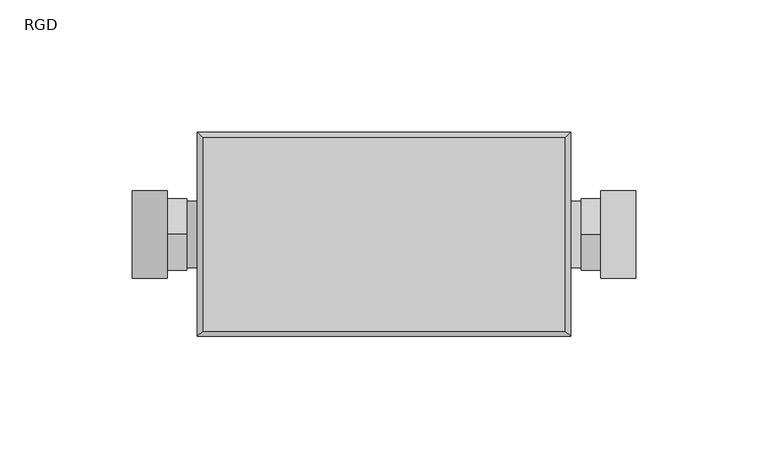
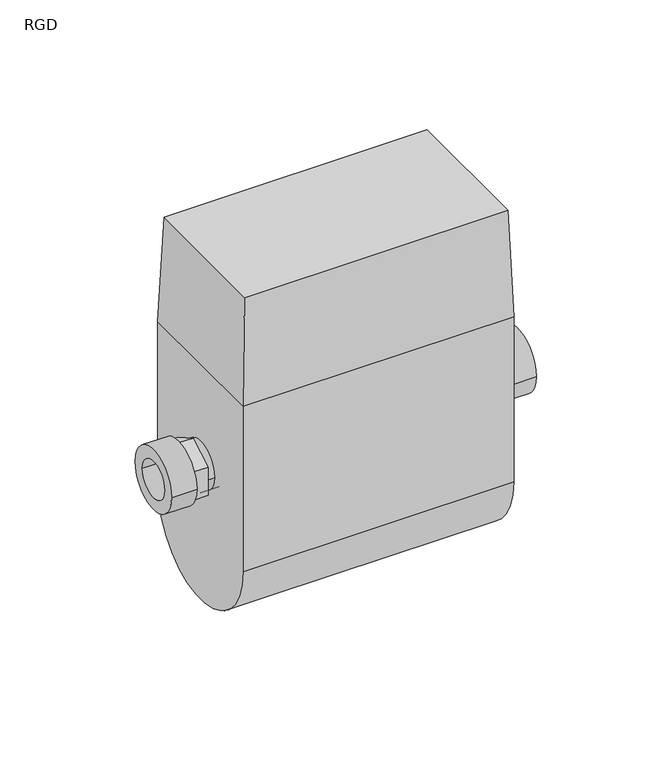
"""IFC4 building model written with IfcOpenShell, lengths in millimetres: pipe fitting geometry, RE.GUARD : RGD."""

from ifc_helpers import new_model, si_unit, point, frame, frame_2d, origin, place, context, project, spatial, polyline, circle_curve, trimmed, segment, composite_curve, outline, extrude, source, transform, mapped, element, save
from ifc_brep_helpers import plane_surface, cylinder_surface, revolved_surface, advanced_brep


def rgd_206702d6(model_context):
    return source(origin(), model_context, "Body", "SolidModel", [
        extrude(outline(polyline([(15.0294975, -15.5884573), (1.5294975, -7.7942286), (1.5294975, 7.7942286), (15.0294975, 15.5884573), (28.5294975, 7.7942286), (28.5294975, -7.7942286), (15.0294975, -15.5884573)]), holes=[composite_curve([segment(trimmed(circle_curve(frame_2d((15.0294975, 0.0)), 10.0), [point((5.0294975, 0.0))], [point((25.0294975, 0.0))], True, "CARTESIAN"), True, "CONTINUOUS"), segment(trimmed(circle_curve(frame_2d((15.0294975, 0.0)), 10.0), [point((25.0294975, 0.0))], [point((5.0294975, 0.0))], True, "CARTESIAN"), True, "CONTINUOUS")], self_intersect=False)]), frame((74.4, 0.0, 0.0), z_axis=(1.0, 0.0, 0.0), x_axis=(0.0, 1.0, 0.0)), (0.0, 0.0, 1.0), 7.5),
        extrude(outline(composite_curve([segment(trimmed(circle_curve(frame_2d((15.0294975, 0.0)), 12.5), [point((2.5294975, 0.0))], [point((27.5294975, 0.0))], False, "CARTESIAN"), True, "CONTINUOUS"), segment(trimmed(circle_curve(frame_2d((15.0294975, 0.0)), 12.5), [point((27.5294975, 0.0))], [point((2.5294975, 0.0))], False, "CARTESIAN"), True, "CONTINUOUS")], self_intersect=False), holes=[composite_curve([segment(trimmed(circle_curve(frame_2d((15.0294975, 0.0)), 10.0), [point((5.0294975, 0.0))], [point((25.0294975, 0.0))], True, "CARTESIAN"), True, "CONTINUOUS"), segment(trimmed(circle_curve(frame_2d((15.0294975, 0.0)), 10.0), [point((25.0294975, 0.0))], [point((5.0294975, 0.0))], True, "CARTESIAN"), True, "CONTINUOUS")], self_intersect=False)]), frame((65.0, 0.0, 0.0), z_axis=(1.0, 0.0, 0.0), x_axis=(0.0, 1.0, 0.0)), (0.0, 0.0, 1.0), 9.4),
        extrude(outline(composite_curve([segment(trimmed(circle_curve(frame_2d((15.0294975, 0.0)), 16.5), [point((-1.4705025, 0.0))], [point((31.5294975, 0.0))], False, "CARTESIAN"), True, "CONTINUOUS"), segment(trimmed(circle_curve(frame_2d((15.0294975, 0.0)), 16.5), [point((31.5294975, 0.0))], [point((-1.4705025, 0.0))], False, "CARTESIAN"), True, "CONTINUOUS")], self_intersect=False), holes=[composite_curve([segment(trimmed(circle_curve(frame_2d((15.0294975, 0.0)), 10.0), [point((5.0294975, 0.0))], [point((25.0294975, 0.0))], True, "CARTESIAN"), True, "CONTINUOUS"), segment(trimmed(circle_curve(frame_2d((15.0294975, 0.0)), 10.0), [point((25.0294975, 0.0))], [point((5.0294975, 0.0))], True, "CARTESIAN"), True, "CONTINUOUS")], self_intersect=False)]), frame((81.9, 0.0, 0.0), z_axis=(1.0, 0.0, 0.0), x_axis=(0.0, 1.0, 0.0)), (0.0, 0.0, 1.0), 13.1),
        extrude(outline(polyline([(1.5294975, 7.7942286), (15.0294975, 15.5884573), (28.5294975, 7.7942286), (28.5294975, -7.7942286), (15.0294975, -15.5884573), (1.5294975, -7.7942286), (1.5294975, 7.7942286)]), holes=[composite_curve([segment(trimmed(circle_curve(frame_2d((15.0294975, 0.0)), 10.0), [point((25.0294975, 0.0))], [point((5.0294975, 0.0))], True, "CARTESIAN"), True, "CONTINUOUS"), segment(trimmed(circle_curve(frame_2d((15.0294975, 0.0)), 10.0), [point((5.0294975, 0.0))], [point((25.0294975, 0.0))], True, "CARTESIAN"), True, "CONTINUOUS")], self_intersect=False)]), frame((-81.9, 0.0, 0.0), z_axis=(1.0, 0.0, 0.0), x_axis=(0.0, 1.0, 0.0)), (0.0, 0.0, 1.0), 7.5),
        extrude(outline(composite_curve([segment(trimmed(circle_curve(frame_2d((15.0294975, 0.0)), 12.5), [point((2.5294975, 0.0))], [point((27.5294975, 0.0))], False, "CARTESIAN"), True, "CONTINUOUS"), segment(trimmed(circle_curve(frame_2d((15.0294975, 0.0)), 12.5), [point((27.5294975, 0.0))], [point((2.5294975, 0.0))], False, "CARTESIAN"), True, "CONTINUOUS")], self_intersect=False), holes=[composite_curve([segment(trimmed(circle_curve(frame_2d((15.0294975, 0.0)), 10.0), [point((25.0294975, 0.0))], [point((5.0294975, 0.0))], True, "CARTESIAN"), True, "CONTINUOUS"), segment(trimmed(circle_curve(frame_2d((15.0294975, 0.0)), 10.0), [point((5.0294975, 0.0))], [point((25.0294975, 0.0))], True, "CARTESIAN"), True, "CONTINUOUS")], self_intersect=False)]), frame((-74.4, 0.0, 0.0), z_axis=(1.0, 0.0, 0.0), x_axis=(0.0, 1.0, 0.0)), (0.0, 0.0, 1.0), 9.4),
        extrude(outline(composite_curve([segment(trimmed(circle_curve(frame_2d((15.0294975, 0.0)), 16.5), [point((-1.4705025, 0.0))], [point((31.5294975, 0.0))], False, "CARTESIAN"), True, "CONTINUOUS"), segment(trimmed(circle_curve(frame_2d((15.0294975, 0.0)), 16.5), [point((31.5294975, 0.0))], [point((-1.4705025, 0.0))], False, "CARTESIAN"), True, "CONTINUOUS")], self_intersect=False), holes=[composite_curve([segment(trimmed(circle_curve(frame_2d((15.0294975, 0.0)), 10.0), [point((25.0294975, 0.0))], [point((5.0294975, 0.0))], True, "CARTESIAN"), True, "CONTINUOUS"), segment(trimmed(circle_curve(frame_2d((15.0294975, 0.0)), 10.0), [point((5.0294975, 0.0))], [point((25.0294975, 0.0))], True, "CARTESIAN"), True, "CONTINUOUS")], self_intersect=False)]), frame((-95.0, 0.0, 0.0), z_axis=(1.0, 0.0, 0.0), x_axis=(0.0, 1.0, 0.0)), (0.0, 0.0, 1.0), 13.1),
        advanced_brep(
        [(68.5, 51.5294975, 113.0), (-68.5, 51.5294975, 113.0), (-68.5, -21.4705025, 113.0), (68.5, -21.4705025, 113.0), (70.5, 53.5294975, 55.0), (-70.5, 53.5294975, 55.0), (-70.5, -23.4705025, 55.0), (70.5, -23.4705025, 55.0), (70.5, -23.4705025, -35.9350922), (70.5, 53.5294975, -35.9350922), (70.5, 15.0294975, -10.0), (70.5, 15.0294975, 10.0), (-70.5, 53.5294975, -35.9350922), (-70.5, -23.4705025, -35.9350922), (-70.5, 15.0294975, 10.0), (-70.5, 15.0294975, -10.0)],
        [
            (0, 1),
            (1, 2),
            (2, 3),
            (3, 0),
            (0, 4),
            (4, 5),
            (5, 1),
            (5, 6),
            (6, 2),
            (6, 7),
            (7, 3),
            (7, 4),
            (7, 8),
            (8, 9, circle_curve(frame((70.5, 15.0294975, -35.9350922), z_axis=(1.0, 0.0, 0.0), x_axis=(0.0, 1.0, 0.0)), 38.5)),
            (9, 4),
            (10, 11, circle_curve(frame((70.5, 15.0294975, 0.0), z_axis=(-1.0, 0.0, 0.0), x_axis=(0.0, 0.0, 1.0)), 10.0)),
            (11, 10, circle_curve(frame((70.5, 15.0294975, 0.0), z_axis=(-1.0, 0.0, 0.0), x_axis=(0.0, 0.0, 1.0)), 10.0)),
            (5, 12),
            (12, 13, circle_curve(frame((-70.5, 15.0294975, -35.9350922), z_axis=(-1.0, 0.0, 0.0), x_axis=(0.0, 1.0, 0.0)), 38.5)),
            (13, 6),
            (14, 15, circle_curve(frame((-70.5, 15.0294975, 0.0), z_axis=(1.0, 0.0, 0.0), x_axis=(0.0, 0.0, 1.0)), 10.0)),
            (15, 14, circle_curve(frame((-70.5, 15.0294975, 0.0), z_axis=(1.0, 0.0, 0.0), x_axis=(0.0, 0.0, 1.0)), 10.0)),
            (13, 8),
            (12, 9),
            (14, 11),
            (10, 15),
        ],
        [
            plane_surface(frame((0.0, 15.0294975, 113.0), z_axis=(0.0, 0.0, 1.0), x_axis=(0.0, -1.0, 0.0))),
            plane_surface(frame((0.0, 53.5294975, 55.0), z_axis=(0.0, 0.9994059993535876, 0.0344622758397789), x_axis=(-1.0, 0.0, 0.0))),
            plane_surface(frame((-70.5, 15.0294975, 55.0), z_axis=(-0.9994059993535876, 0.0, 0.0344622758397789), x_axis=(0.0, -1.0, 0.0))),
            plane_surface(frame((0.0, -23.4705025, 55.0), z_axis=(0.0, -0.9994059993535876, 0.0344622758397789), x_axis=(1.0, 0.0, 0.0))),
            plane_surface(frame((70.5, 15.0294975, 55.0), z_axis=(0.9994059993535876, 0.0, 0.0344622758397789), x_axis=(0.0, 1.0, 0.0))),
            plane_surface(frame((70.5, -23.4705025, 0.0), z_axis=(1.0, 0.0, 0.0), x_axis=(0.0, 0.0, -1.0))),
            plane_surface(frame((-70.5, -23.4705025, 0.0), z_axis=(-1.0, 0.0, 0.0), x_axis=(0.0, 0.0, 1.0))),
            plane_surface(frame((70.5, -23.4705025, 55.0), z_axis=(0.0, -1.0, 0.0), x_axis=(-1.0, 0.0, 0.0))),
            cylinder_surface(frame((-70.5, 15.0294975, -35.9350922), z_axis=(1.0, 0.0, 0.0), x_axis=(0.0, 1.0, 0.0)), 38.5),
            plane_surface(frame((70.5, 53.5294975, -35.9350922), z_axis=(0.0, 1.0, 0.0), x_axis=(-1.0, 0.0, 0.0))),
            revolved_surface(polyline([(-70.5, 15.0294975, 10.0), (70.5, 15.0294975, 10.0)]), (-70.5, 15.0294975, 0.0), (-1.0, 0.0, 0.0)),
        ],
        [
            (0, [[1, 2, 3, 4]]),
            (1, [[-1, 5, 6, 7]]),
            (2, [[-2, -7, 8, 9]]),
            (3, [[-3, -9, 10, 11]]),
            (4, [[-4, -11, 12, -5]]),
            (5, [[13, 14, 15, -12], [16, 17]]),
            (6, [[18, 19, 20, -8], [21, 22]]),
            (7, [[-13, -10, -20, 23]]),
            (8, [[-14, -23, -19, 24]]),
            (9, [[-15, -24, -18, -6]]),
            (10, [[25, -16, 26, -21]]),
            (10, [[-25, -22, -26, -17]]),
        ],
    ),
    ])


if __name__ == "__main__":
    model = new_model("IFC4")
    model_context = context("Model", 3, world=origin())
    ifc_project = project(units=[si_unit("LENGTHUNIT", "METRE", prefix="MILLI")], contexts=[model_context])
    site = spatial("IfcSite", under=ifc_project)
    building = spatial("IfcBuilding", under=site)
    placement = place(None, origin())
    rgd_shape = rgd_206702d6(model_context)
    element("IfcPipeFitting", 1, ObjectType="RE.GUARD : RGD", at=placement, inside=building, context=model_context, shape_type="MappedRepresentation", body=[
        mapped(rgd_shape, transform((0.0, 0.0, 0.0), x_axis=(1.0, 0.0, 0.0), y_axis=(0.0, 1.0, 0.0), z_axis=(0.0, 0.0, 1.0))),
    ])
    save(model, "model.ifc")
